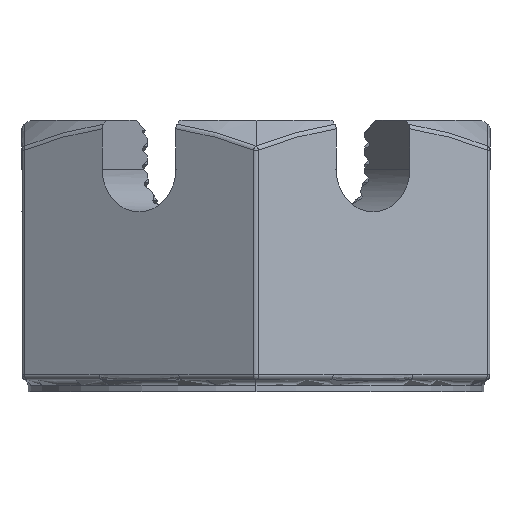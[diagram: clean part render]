
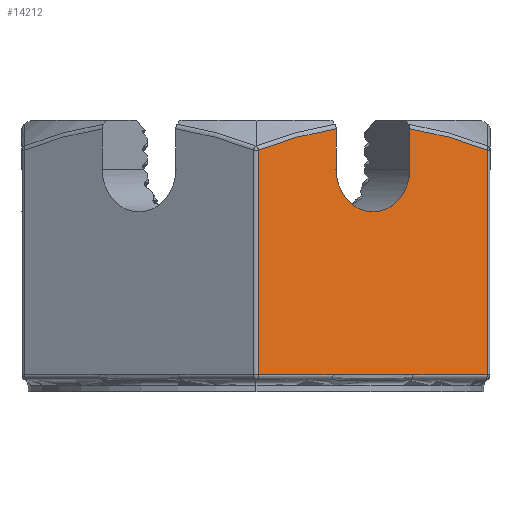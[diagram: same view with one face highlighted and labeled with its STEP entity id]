
A CAD part, left-side view. The second image highlights one B-rep face of the part: STEP entity #14212.
In plain terms, the highlighted planar face has unit normal (-0.866, -0.5, 0).
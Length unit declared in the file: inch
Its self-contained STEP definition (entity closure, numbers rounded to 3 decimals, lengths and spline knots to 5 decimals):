
#396 = VERTEX_POINT ( 'NONE', #9714 ) ;
#927 = DIRECTION ( 'NONE',  ( 0.866, 0.5, 0. ) ) ;
#1052 = EDGE_CURVE ( 'NONE', #28381, #31156, #60333, .T. ) ;
#1288 = DIRECTION ( 'NONE',  ( 0.866, 0.5, 0. ) ) ;
#2374 = VECTOR ( 'NONE', #42636, 39.37008 ) ;
#2674 = DIRECTION ( 'NONE',  ( 0.5, -0.866, 0. ) ) ;
#3030 = DIRECTION ( 'NONE',  ( -0.866, -0.5, 0. ) ) ;
#3382 = CARTESIAN_POINT ( 'NONE',  ( -0.9525, -0.54993, -1.275 ) ) ;
#3566 = AXIS2_PLACEMENT_3D ( 'NONE', #56523, #927, #18147 ) ;
#4211 = CARTESIAN_POINT ( 'NONE',  ( -1.22859, -0.07172, -0.11715 ) ) ;
#5270 = CARTESIAN_POINT ( 'NONE',  ( -1.0525, -0.37672, -0.03939 ) ) ;
#5344 = CARTESIAN_POINT ( 'NONE',  ( -0.8525, -0.72313, -0.03939 ) ) ;
#6080 = VERTEX_POINT ( 'NONE', #38356 ) ;
#6848 = CARTESIAN_POINT ( 'NONE',  ( -0.64222, -1.08735, -1.275 ) ) ;
#7107 = ORIENTED_EDGE ( 'NONE', *, *, #51187, .T. ) ;
#7270 = VERTEX_POINT ( 'NONE', #39761 ) ;
#7710 = EDGE_CURVE ( 'NONE', #6080, #16071, #19253, .T. ) ;
#8546 = ORIENTED_EDGE ( 'NONE', *, *, #7710, .T. ) ;
#9714 = CARTESIAN_POINT ( 'NONE',  ( -0.9525, -0.54993, -0.43 ) ) ;
#11366 = DIRECTION ( 'NONE',  ( 0.5, -0.866, 0. ) ) ;
#12798 = DIRECTION ( 'NONE',  ( 0., 0., 1. ) ) ;
#13020 = VECTOR ( 'NONE', #67126, 39.37008 ) ;
#13930 = CARTESIAN_POINT ( 'NONE',  ( -1.02476, -0.42477, -1.19646 ) ) ;
#14212 = ADVANCED_FACE ( 'NONE', ( #30649 ), #68691, .T. ) ;
#14277 = CARTESIAN_POINT ( 'NONE',  ( -0.98862, -0.48736, -1.19894 ) ) ;
#14691 = CARTESIAN_POINT ( 'NONE',  ( -1.26278, -0.0125, -0.14054 ) ) ;
#14983 = CARTESIAN_POINT ( 'NONE',  ( -1.0609, -0.36217, -1.195 ) ) ;
#16031 = VERTEX_POINT ( 'NONE', #42704 ) ;
#16071 = VERTEX_POINT ( 'NONE', #25879 ) ;
#16783 = VERTEX_POINT ( 'NONE', #14691 ) ;
#17032 = EDGE_CURVE ( 'NONE', #64695, #28381, #26165, .T. ) ;
#18147 = DIRECTION ( 'NONE',  ( 0.5, -0.866, 0. ) ) ;
#18747 = EDGE_CURVE ( 'NONE', #396, #7270, #38980, .T. ) ;
#18894 = DIRECTION ( 'NONE',  ( 0.5, -0.866, 0. ) ) ;
#19253 = LINE ( 'NONE', #36091, #24566 ) ;
#20181 = ORIENTED_EDGE ( 'NONE', *, *, #50776, .F. ) ;
#20775 = CIRCLE ( 'NONE', #3566, 0.2 ) ;
#21079 = CARTESIAN_POINT ( 'NONE',  ( -1.08837, -0.31459, -0.04837 ) ) ;
#21126 = AXIS2_PLACEMENT_3D ( 'NONE', #3382, #3030, #2674 ) ;
#22041 = CARTESIAN_POINT ( 'NONE',  ( -0.8525, -0.72313, -0.03939 ) ) ;
#22156 = ORIENTED_EDGE ( 'NONE', *, *, #63850, .T. ) ;
#23190 = EDGE_CURVE ( 'NONE', #48780, #396, #20775, .T. ) ;
#23425 = ORIENTED_EDGE ( 'NONE', *, *, #1052, .T. ) ;
#24013 = ORIENTED_EDGE ( 'NONE', *, *, #33137, .T. ) ;
#24566 = VECTOR ( 'NONE', #18894, 39.37008 ) ;
#25292 = AXIS2_PLACEMENT_3D ( 'NONE', #66249, #1288, #11366 ) ;
#25879 = CARTESIAN_POINT ( 'NONE',  ( -1.0609, -0.36217, -1.195 ) ) ;
#26100 = CARTESIAN_POINT ( 'NONE',  ( -0.93441, -0.58125, -1.19993 ) ) ;
#26165 = LINE ( 'NONE', #48019, #2374 ) ;
#26466 = CARTESIAN_POINT ( 'NONE',  ( -1.19401, -0.13162, -0.09637 ) ) ;
#26544 = CARTESIAN_POINT ( 'NONE',  ( -0.64222, -1.08735, -0.14054 ) ) ;
#28381 = VERTEX_POINT ( 'NONE', #63796 ) ;
#28672 = CARTESIAN_POINT ( 'NONE',  ( -0.64222, -1.08735, -0.14054 ) ) ;
#28939 = ORIENTED_EDGE ( 'NONE', *, *, #18747, .T. ) ;
#29747 = ORIENTED_EDGE ( 'NONE', *, *, #17032, .T. ) ;
#30649 = FACE_OUTER_BOUND ( 'NONE', #51000, .T. ) ;
#31156 = VERTEX_POINT ( 'NONE', #28672 ) ;
#33137 = EDGE_CURVE ( 'NONE', #7270, #16031, #61940, .T. ) ;
#33402 = VECTOR ( 'NONE', #12798, 39.37008 ) ;
#33462 = B_SPLINE_CURVE_WITH_KNOTS ( 'NONE', 3,
 ( #26544, #64204, #47683, #59887, #64917, #5344 ),
 .UNSPECIFIED., .F., .F.,
 ( 4, 2, 4 ),
 ( 0., 0.0055, 0.011 ),
 .UNSPECIFIED. ) ;
#34266 = LINE ( 'NONE', #61532, #45908 ) ;
#35803 = CARTESIAN_POINT ( 'NONE',  ( -0.88023, -0.6751, -1.19645 ) ) ;
#36091 = CARTESIAN_POINT ( 'NONE',  ( -0.635, -1.09985, -1.195 ) ) ;
#36334 = CARTESIAN_POINT ( 'NONE',  ( -0.8525, -0.72313, -0.43 ) ) ;
#36501 = CARTESIAN_POINT ( 'NONE',  ( -0.8441, -0.73769, -1.195 ) ) ;
#37029 = EDGE_CURVE ( 'NONE', #31156, #49184, #33462, .T. ) ;
#37610 = EDGE_CURVE ( 'NONE', #16031, #16783, #60922, .T. ) ;
#38356 = CARTESIAN_POINT ( 'NONE',  ( -1.26278, -0.0125, -1.195 ) ) ;
#38980 = CIRCLE ( 'NONE', #25292, 0.2 ) ;
#39761 = CARTESIAN_POINT ( 'NONE',  ( -1.0525, -0.37672, -0.23 ) ) ;
#41132 = CARTESIAN_POINT ( 'NONE',  ( -1.0525, -0.37672, -0.43 ) ) ;
#41177 = CARTESIAN_POINT ( 'NONE',  ( -0.86217, -0.70638, -1.195 ) ) ;
#42636 = DIRECTION ( 'NONE',  ( 0.5, -0.866, 0. ) ) ;
#42704 = CARTESIAN_POINT ( 'NONE',  ( -1.0525, -0.37672, -0.03939 ) ) ;
#45908 = VECTOR ( 'NONE', #56142, 39.37008 ) ;
#46734 = LINE ( 'NONE', #36334, #64259 ) ;
#47602 = CARTESIAN_POINT ( 'NONE',  ( -0.91635, -0.61254, -1.19894 ) ) ;
#47609 = CARTESIAN_POINT ( 'NONE',  ( -1.26278, -0.0125, -0.14054 ) ) ;
#47683 = CARTESIAN_POINT ( 'NONE',  ( -0.71099, -0.96823, -0.09637 ) ) ;
#48019 = CARTESIAN_POINT ( 'NONE',  ( -0.635, -1.09985, -1.195 ) ) ;
#48780 = VERTEX_POINT ( 'NONE', #64757 ) ;
#49184 = VERTEX_POINT ( 'NONE', #22041 ) ;
#50776 = EDGE_CURVE ( 'NONE', #48780, #49184, #46734, .T. ) ;
#51000 = EDGE_LOOP ( 'NONE', ( #23425, #68256, #20181, #53865, #28939, #24013, #54614, #7107, #8546, #22156, #29747 ) ) ;
#51187 = EDGE_CURVE ( 'NONE', #16783, #6080, #34266, .T. ) ;
#52996 = CARTESIAN_POINT ( 'NONE',  ( -1.12381, -0.2532, -0.06193 ) ) ;
#53275 = B_SPLINE_CURVE_WITH_KNOTS ( 'NONE', 3,
 ( #14983, #63772, #13930, #14277, #68461, #26100, #47602, #35803, #41177, #36501 ),
 .UNSPECIFIED., .F., .F.,
 ( 4, 2, 2, 2, 4 ),
 ( 0., 0.00275, 0.00551, 0.00826, 0.01102 ),
 .UNSPECIFIED. ) ;
#53865 = ORIENTED_EDGE ( 'NONE', *, *, #23190, .T. ) ;
#54614 = ORIENTED_EDGE ( 'NONE', *, *, #37610, .T. ) ;
#56142 = DIRECTION ( 'NONE',  ( 0., 0., -1. ) ) ;
#56523 = CARTESIAN_POINT ( 'NONE',  ( -0.9525, -0.54993, -0.23 ) ) ;
#59887 = CARTESIAN_POINT ( 'NONE',  ( -0.78119, -0.84665, -0.06193 ) ) ;
#60333 = LINE ( 'NONE', #6848, #13020 ) ;
#60922 = B_SPLINE_CURVE_WITH_KNOTS ( 'NONE', 3,
 ( #5270, #21079, #52996, #26466, #4211, #47609 ),
 .UNSPECIFIED., .F., .F.,
 ( 4, 2, 4 ),
 ( 0., 0.0055, 0.011 ),
 .UNSPECIFIED. ) ;
#61532 = CARTESIAN_POINT ( 'NONE',  ( -1.26278, -0.0125, -1.275 ) ) ;
#61940 = LINE ( 'NONE', #41132, #33402 ) ;
#63263 = DIRECTION ( 'NONE',  ( 0., 0., 1. ) ) ;
#63772 = CARTESIAN_POINT ( 'NONE',  ( -1.04282, -0.39349, -1.195 ) ) ;
#63796 = CARTESIAN_POINT ( 'NONE',  ( -0.64222, -1.08735, -1.195 ) ) ;
#63850 = EDGE_CURVE ( 'NONE', #16071, #64695, #53275, .T. ) ;
#64204 = CARTESIAN_POINT ( 'NONE',  ( -0.67641, -1.02813, -0.11715 ) ) ;
#64259 = VECTOR ( 'NONE', #63263, 39.37008 ) ;
#64695 = VERTEX_POINT ( 'NONE', #64720 ) ;
#64720 = CARTESIAN_POINT ( 'NONE',  ( -0.8441, -0.73769, -1.195 ) ) ;
#64757 = CARTESIAN_POINT ( 'NONE',  ( -0.8525, -0.72313, -0.23 ) ) ;
#64917 = CARTESIAN_POINT ( 'NONE',  ( -0.81663, -0.78526, -0.04837 ) ) ;
#66249 = CARTESIAN_POINT ( 'NONE',  ( -0.9525, -0.54993, -0.23 ) ) ;
#67126 = DIRECTION ( 'NONE',  ( 0., 0., 1. ) ) ;
#68256 = ORIENTED_EDGE ( 'NONE', *, *, #37029, .T. ) ;
#68461 = CARTESIAN_POINT ( 'NONE',  ( -0.97055, -0.51866, -1.19993 ) ) ;
#68691 = PLANE ( 'NONE',  #21126 ) ;
